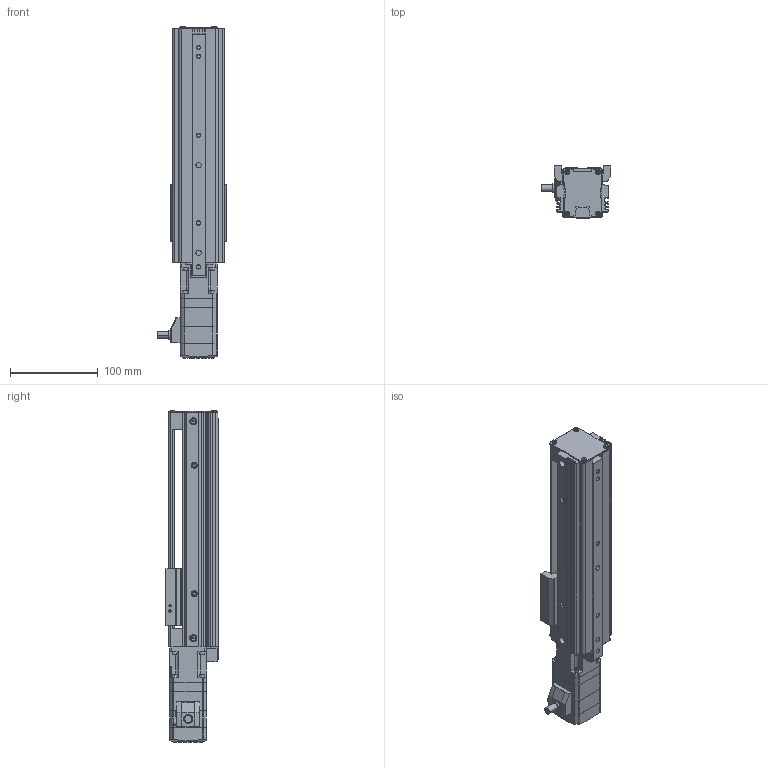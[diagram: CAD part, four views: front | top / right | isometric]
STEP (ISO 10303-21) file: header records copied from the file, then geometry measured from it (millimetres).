
FILE_DESCRIPTION (( 'STEP AP203' ), '1' );
FILE_NAME ('EASM4XD015ARAC.step', '2013-10-09T02:53:33', ( 'om' ), ( 'Hewlett-Packard Company' ), 'SwSTEP 2.0', 'SolidWorks 2011', '' );
FILE_SCHEMA (( 'CONFIG_CONTROL_DESIGN' ));
Length unit declared in the file: millimetre
Products named in the file (4): EASM4XD015ARAC_Table; EASM4XD015ARAC_Motor; EASM4XD015ARAC; EASM4XD015ARAC_BASE
Assembly tree (3 placements, depth 2):
  EASM4XD015ARAC
    EASM4XD015ARAC_Table
    EASM4XD015ARAC_BASE
    EASM4XD015ARAC_Motor
Bounding box: 79 x 60 x 378.2 mm (x, y, z)
Volume: 632753.3 mm3; surface area: 189329.2 mm2
Topology: 3 solids, 13 shells, 1076 faces, 2773 edges, 1800 vertices
Faces by surface type: plane 591, cylinder 387, cone 62, torus 30, bspline 4, sphere 2
Entity records: 33245 total; most frequent: CARTESIAN_POINT 5834, DIRECTION 5768, ORIENTED_EDGE 5498, EDGE_CURVE 2749, AXIS2_PLACEMENT_3D 1966, LINE 1836, VECTOR 1836, VERTEX_POINT 1800
